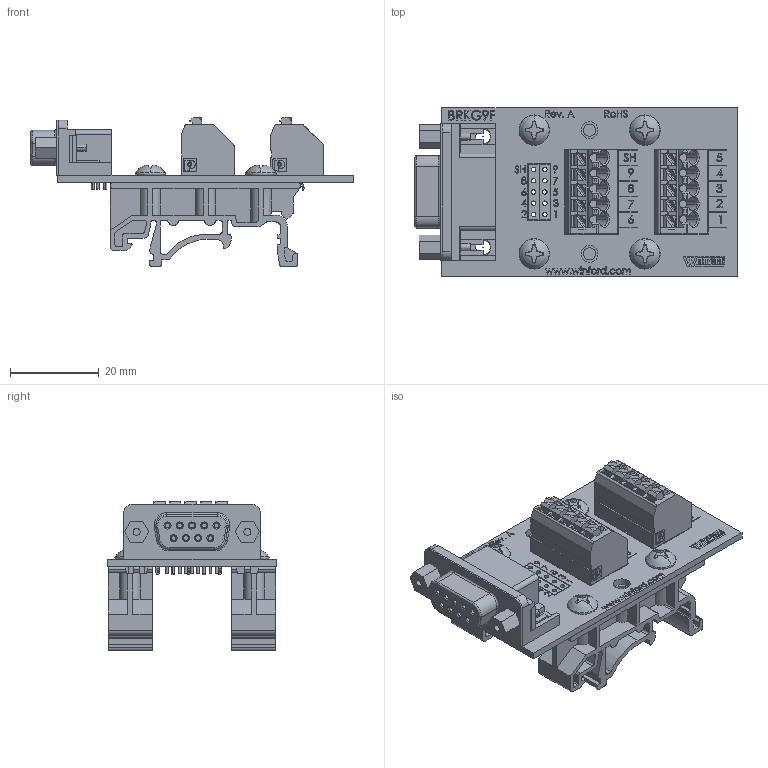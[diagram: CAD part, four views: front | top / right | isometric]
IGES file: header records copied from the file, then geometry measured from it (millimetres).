
Start section: SolidWorks IGES file using analytic representation for surfaces
Global section: file name: C:\Users\Jonny\Documents\Winford Engineering Jobs\BRK Boards\BRKG9F\brkg9f-r-din_rev_a.igs; native system: SolidWorks 2017; preprocessor: SolidWorks 2017; author: Jonny; date: 170511.220153; units: inch
Bounding box: 72.8 x 38.1 x 33.67 mm (x, y, z)
Volume: 17505.9 mm3; surface area: 22149.3 mm2
Topology: 25 solids, 25 shells, 3048 faces, 8273 edges, 5430 vertices
Faces by surface type: plane 1769, revolution 921, bspline 358
